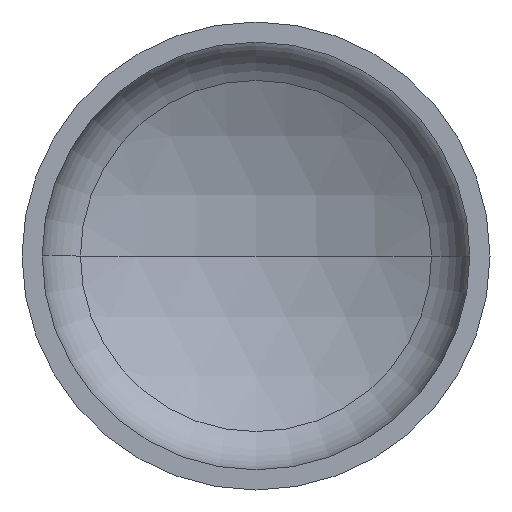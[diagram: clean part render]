
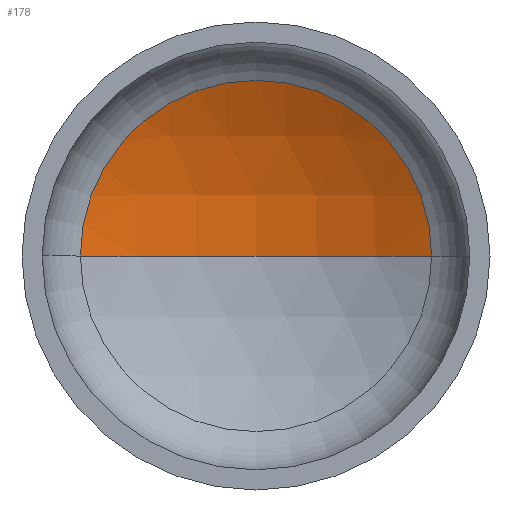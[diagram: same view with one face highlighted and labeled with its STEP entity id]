
A CAD part, front view. The second image highlights one B-rep face of the part: STEP entity #178.
In plain terms, the highlighted spherical face has radius 1040 mm.
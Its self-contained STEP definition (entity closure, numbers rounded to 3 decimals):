
#2 = VERTEX_POINT ( 'NONE', #249 ) ;
#5 = CARTESIAN_POINT ( 'NONE',  ( 0., -621.865, 0. ) ) ;
#12 = ORIENTED_EDGE ( 'NONE', *, *, #84, .T. ) ;
#26 = AXIS2_PLACEMENT_3D ( 'NONE', #251, #255, #261 ) ;
#33 = EDGE_LOOP ( 'NONE', ( #51, #12, #160 ) ) ;
#39 = AXIS2_PLACEMENT_3D ( 'NONE', #5, #58, #280 ) ;
#41 = AXIS2_PLACEMENT_3D ( 'NONE', #191, #194, #195 ) ;
#42 = AXIS2_PLACEMENT_3D ( 'NONE', #217, #218, #213 ) ;
#51 = ORIENTED_EDGE ( 'NONE', *, *, #114, .F. ) ;
#53 = VERTEX_POINT ( 'NONE', #285 ) ;
#58 = DIRECTION ( 'NONE',  ( 0., 0., 1. ) ) ;
#83 = EDGE_CURVE ( 'NONE', #118, #2, #320, .T. ) ;
#84 = EDGE_CURVE ( 'NONE', #53, #118, #258, .T. ) ;
#114 = EDGE_CURVE ( 'NONE', #53, #2, #311, .T. ) ;
#118 = VERTEX_POINT ( 'NONE', #400 ) ;
#160 = ORIENTED_EDGE ( 'NONE', *, *, #83, .T. ) ;
#178 = ADVANCED_FACE ( 'NONE', ( #253 ), #298, .F. ) ;
#191 = CARTESIAN_POINT ( 'NONE',  ( 0., -621.865, 0. ) ) ;
#194 = DIRECTION ( 'NONE',  ( 0., 0., -1. ) ) ;
#195 = DIRECTION ( 'NONE',  ( -1., 0., 0. ) ) ;
#213 = DIRECTION ( 'NONE',  ( 1., 0., 0. ) ) ;
#217 = CARTESIAN_POINT ( 'NONE',  ( 0., 296.635, 0. ) ) ;
#218 = DIRECTION ( 'NONE',  ( 0., -1., 0. ) ) ;
#249 = CARTESIAN_POINT ( 'NONE',  ( -487.81, 296.635, 0. ) ) ;
#251 = CARTESIAN_POINT ( 'NONE',  ( 0., -621.865, 0. ) ) ;
#253 = FACE_OUTER_BOUND ( 'NONE', #33, .T. ) ;
#255 = DIRECTION ( 'NONE',  ( 0., 0., -1. ) ) ;
#258 = CIRCLE ( 'NONE', #41, 1040. ) ;
#261 = DIRECTION ( 'NONE',  ( -1., 0., 0. ) ) ;
#280 = DIRECTION ( 'NONE',  ( 1., 0., 0. ) ) ;
#285 = CARTESIAN_POINT ( 'NONE',  ( 0., 418.135, 0. ) ) ;
#298 = SPHERICAL_SURFACE ( 'NONE', #26, 1040. ) ;
#311 = CIRCLE ( 'NONE', #39, 1040. ) ;
#320 = CIRCLE ( 'NONE', #42, 487.81 ) ;
#400 = CARTESIAN_POINT ( 'NONE',  ( 487.81, 296.635, 0. ) ) ;
